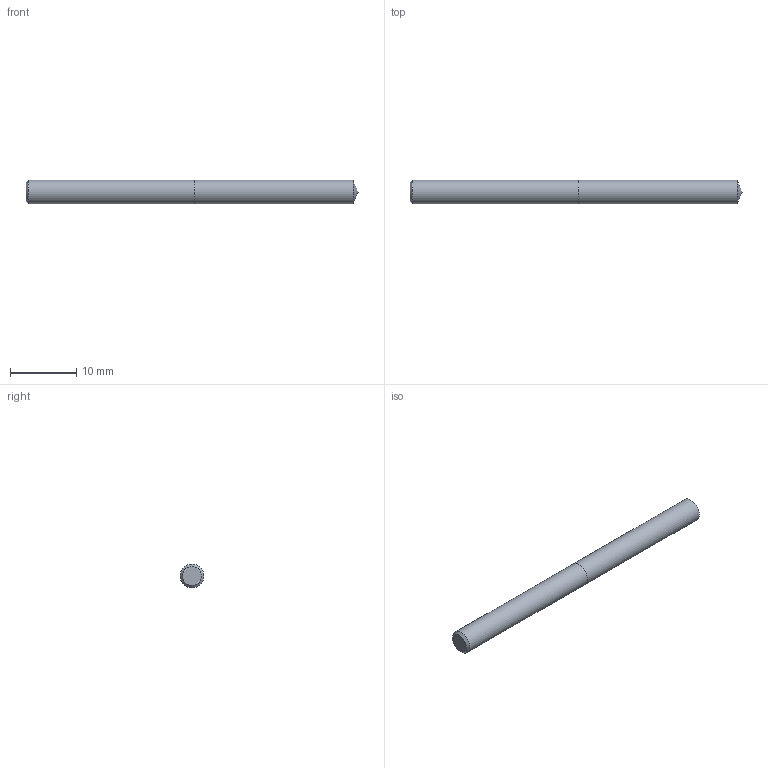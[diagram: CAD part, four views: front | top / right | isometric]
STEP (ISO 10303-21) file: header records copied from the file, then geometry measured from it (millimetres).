
FILE_DESCRIPTION (( 'STEP AP214' ), '1' );
FILE_NAME ('03-2370.STEP', '2022-06-03T06:51:16', ( 'USER' ), ( '' ), 'SwSTEP 2.0', 'SolidWorks 2018', '' );
FILE_SCHEMA (( 'AUTOMOTIVE_DESIGN' ));
Length unit declared in the file: inch
Products named in the file (1): 03-2370
Bounding box: 49.95 x 3.57 x 3.57 mm (x, y, z)
Volume: 494 mm3; surface area: 590.1 mm2
Topology: 2 solids, 2 shells, 7 faces, 11 edges, 7 vertices
Faces by surface type: plane 3, cylinder 2, cone 2
Full cylindrical faces by diameter (mm): 3.569 x2
Entity records: 214 total; most frequent: DIRECTION 26, CARTESIAN_POINT 18, AXIS2_PLACEMENT_3D 13, ORIENTED_EDGE 10, EDGE_LOOP 10, FACE_OUTER_BOUND 9, LENGTH_MEASURE_WITH_UNIT 7, DIMENSIONAL_EXPONENTS 7
